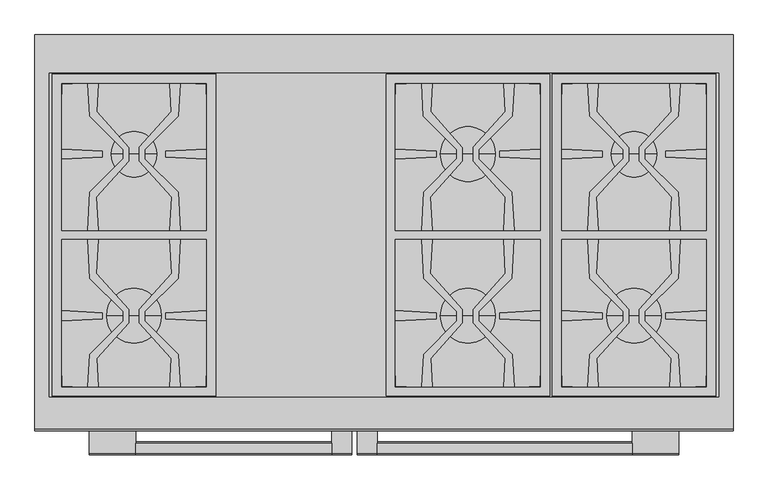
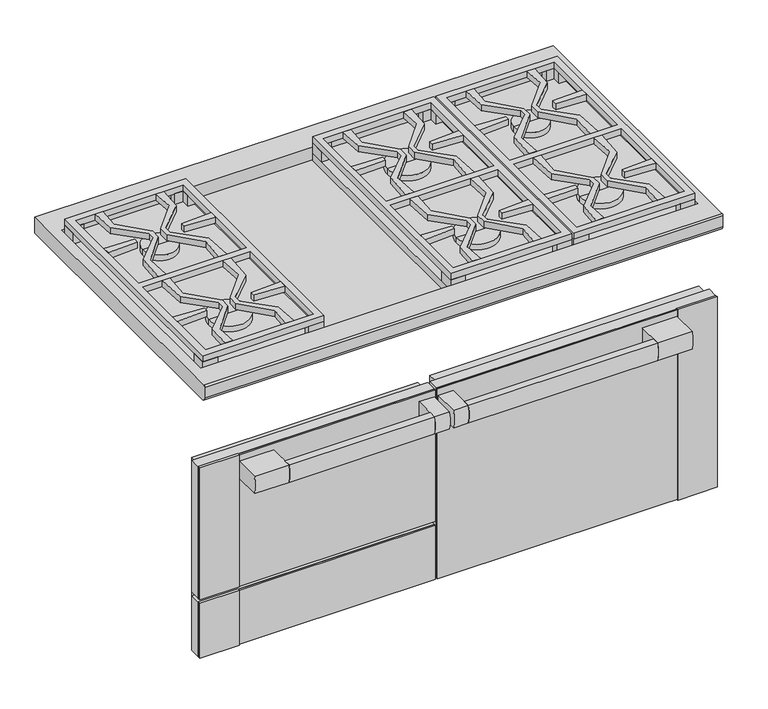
"""IFC4 building model written with IfcOpenShell, lengths in millimetres: proxy geometry, 11791690_USA_HR1955-3G_EDST-CLST : 25195581_USA_11791690_HR1955-3G_EDST-CLST."""

from ifc_helpers import new_model, si_unit, point, frame, frame_2d, origin, place, context, project, spatial, polyline, circle_curve, trimmed, segment, composite_curve, outline, extrude, faceted_brep, source, transform, mapped, element, save
from ifc_brep_helpers import plane_surface, cylinder_surface, advanced_brep


def specialty_equipment_023cb875(model_context):
    return source(origin(), model_context, "Body", "SolidModel", [
        extrude(outline(composite_curve([segment(trimmed(circle_curve(frame_2d((-655.4583333, 645.5)), 78.5416667), [point((-731.0, 624.0))], [point((-731.0, 667.0))], False, "CARTESIAN"), True, "CONTINUOUS"), segment(polyline([(-731.0, 667.0), (-714.0, 667.0)]), True, "CONTINUOUS"), segment(trimmed(circle_curve(frame_2d((-789.5416667, 645.5)), 78.5416667), [point((-714.0, 667.0))], [point((-714.0, 624.0))], False, "CARTESIAN"), True, "CONTINUOUS"), segment(polyline([(-714.0, 624.0), (-731.0, 624.0)]), True, "CONTINUOUS")], self_intersect=False)), frame((-11.5, 0.0, 0.0), z_axis=(1.0, 0.0, 0.0), x_axis=(0.0, 1.0, 0.0)), (0.0, 0.0, 1.0), 445.0),
        extrude(outline(composite_curve([segment(trimmed(circle_curve(frame_2d((-655.4583333, 645.5)), 78.5416667), [point((-731.0, 624.0))], [point((-731.0, 667.0))], False, "CARTESIAN"), True, "CONTINUOUS"), segment(polyline([(-731.0, 667.0), (-714.0, 667.0)]), True, "CONTINUOUS"), segment(trimmed(circle_curve(frame_2d((-789.5416667, 645.5)), 78.5416667), [point((-714.0, 667.0))], [point((-714.0, 624.0))], False, "CARTESIAN"), True, "CONTINUOUS"), segment(polyline([(-714.0, 624.0), (-731.0, 624.0)]), True, "CONTINUOUS")], self_intersect=False)), frame((-433.5, 0.0, 0.0), z_axis=(1.0, 0.0, 0.0), x_axis=(0.0, 1.0, 0.0)), (0.0, 0.0, 1.0), 342.0),
        extrude(outline(composite_curve([segment(polyline([(-731.0, 667.0), (-668.7, 667.0), (-668.7, 624.0), (-731.0, 624.0)]), True, "CONTINUOUS"), segment(trimmed(circle_curve(frame_2d((-655.4583333, 645.5)), 78.5416667), [point((-731.0, 624.0))], [point((-731.0, 667.0))], False, "CARTESIAN"), True, "CONTINUOUS")], self_intersect=False)), frame((-46.5, 0.0, 0.0), z_axis=(1.0, 0.0, 0.0), x_axis=(0.0, 1.0, 0.0)), (0.0, 0.0, 1.0), 35.0),
        extrude(outline(composite_curve([segment(polyline([(-731.0, 667.0), (-668.7, 667.0), (-668.7, 624.0), (-731.0, 624.0)]), True, "CONTINUOUS"), segment(trimmed(circle_curve(frame_2d((-655.4583333, 645.5)), 78.5416667), [point((-731.0, 624.0))], [point((-731.0, 667.0))], False, "CARTESIAN"), True, "CONTINUOUS")], self_intersect=False)), frame((-91.5, 0.0, 0.0), z_axis=(1.0, 0.0, 0.0), x_axis=(0.0, 1.0, 0.0)), (0.0, 0.0, 1.0), 35.0),
        extrude(outline(composite_curve([segment(polyline([(-731.0, 667.0), (-668.7, 667.0), (-668.7, 624.0), (-731.0, 624.0)]), True, "CONTINUOUS"), segment(trimmed(circle_curve(frame_2d((-655.4583333, 645.5)), 78.5416667), [point((-731.0, 624.0))], [point((-731.0, 667.0))], False, "CARTESIAN"), True, "CONTINUOUS")], self_intersect=False)), frame((433.5, 0.0, 0.0), z_axis=(1.0, 0.0, 0.0), x_axis=(0.0, 1.0, 0.0)), (0.0, 0.0, 1.0), 81.0),
        extrude(outline(composite_curve([segment(polyline([(-668.7, 667.0), (-668.7, 624.0), (-731.0, 624.0)]), True, "CONTINUOUS"), segment(trimmed(circle_curve(frame_2d((-655.4583333, 645.5)), 78.5416667), [point((-731.0, 624.0))], [point((-731.0, 667.0))], False, "CARTESIAN"), True, "CONTINUOUS"), segment(polyline([(-731.0, 667.0), (-668.7, 667.0)]), True, "CONTINUOUS")], self_intersect=False)), frame((-514.5, 0.0, 0.0), z_axis=(1.0, 0.0, 0.0), x_axis=(0.0, 1.0, 0.0)), (0.0, 0.0, 1.0), 81.0),
        extrude(outline(polyline([(-596.5, -617.0), (-65.5, -617.0), (-65.5, -638.0), (-596.5, -638.0), (-596.5, -617.0)])), frame((0.0, 0.0, 211.5), z_axis=(0.0, 0.0, 1.0), x_axis=(1.0, 0.0, 0.0)), (0.0, 0.0, 1.0), 134.0),
        extrude(outline(polyline([(-596.5, -617.0), (-65.5, -617.0), (-65.5, -638.0), (-596.5, -638.0), (-596.5, -617.0)])), frame((0.0, 0.0, 359.0), z_axis=(0.0, 0.0, 1.0), x_axis=(1.0, 0.0, 0.0)), (0.0, 0.0, 1.0), 315.0),
        extrude(outline(polyline([(-36.5, -617.0), (596.5, -617.0), (596.5, -638.0), (-36.5, -638.0), (-36.5, -617.0)])), frame((0.0, 0.0, 218.0), z_axis=(0.0, 0.0, 1.0), x_axis=(1.0, 0.0, 0.0)), (0.0, 0.0, 1.0), 464.0),
        extrude(outline(polyline([(-608.5, -638.0), (-53.5, -638.0), (-53.5, -664.7), (-608.5, -664.7), (-608.5, -638.0)])), frame((0.0, 0.0, 211.0), z_axis=(0.0, 0.0, 1.0), x_axis=(1.0, 0.0, 0.0)), (0.0, 0.0, 1.0), 135.0),
        extrude(outline(polyline([(-48.5, -638.0), (608.5, -638.0), (608.5, -664.7), (-48.5, -664.7), (-48.5, -638.0)])), frame((0.0, 0.0, 211.0), z_axis=(0.0, 0.0, 1.0), x_axis=(1.0, 0.0, 0.0)), (0.0, 0.0, 1.0), 472.0),
        extrude(outline(polyline([(-608.5, -638.0), (-53.5, -638.0), (-53.5, -664.7), (-608.5, -664.7), (-608.5, -638.0)])), frame((0.0, 0.0, 356.0), z_axis=(0.0, 0.0, 1.0), x_axis=(1.0, 0.0, 0.0)), (0.0, 0.0, 1.0), 327.0),
        extrude(outline(polyline([(-607.5, -664.7), (-53.5, -664.7), (-53.5, -668.7), (-607.5, -668.7), (-607.5, -664.7)])), frame((0.0, 0.0, 211.0), z_axis=(0.0, 0.0, 1.0), x_axis=(1.0, 0.0, 0.0)), (0.0, 0.0, 1.0), 135.0),
        faceted_brep([(-515.5, -664.7, 210.0), (-608.5, -664.7, 210.0), (-608.5, -664.7, 347.0), (-515.5, -664.7, 347.0), (-515.5, -664.7, 346.0), (-607.5, -664.7, 346.0), (-607.5, -664.7, 211.0), (-515.5, -664.7, 211.0), (-515.5, -670.0, 347.0), (-608.5, -670.0, 347.0), (-608.5, -670.0, 210.0), (-515.5, -670.0, 210.0), (-515.5, -668.7, 211.0), (-515.5, -668.7, 346.0), (-607.5, -668.7, 211.0), (-607.5, -668.7, 346.0)], [[[0, 1, 2, 3, 4, 5, 6, 7]], [[8, 9, 10, 11]], [[8, 11, 0, 7, 12, 13, 4, 3]], [[1, 0, 11, 10]], [[2, 1, 10, 9]], [[3, 2, 9, 8]], [[12, 14, 15, 13]], [[14, 12, 7, 6]], [[15, 14, 6, 5]], [[13, 15, 5, 4]]]),
        extrude(outline(polyline([(-607.5, -664.7), (-53.5, -664.7), (-53.5, -668.7), (-607.5, -668.7), (-607.5, -664.7)])), frame((0.0, 0.0, 356.0), z_axis=(0.0, 0.0, 1.0), x_axis=(1.0, 0.0, 0.0)), (0.0, 0.0, 1.0), 327.0),
        faceted_brep([(-515.5, -664.7, 355.0), (-608.5, -664.7, 355.0), (-608.5, -664.7, 684.0), (-515.5, -664.7, 684.0), (-515.5, -664.7, 683.0), (-607.5, -664.7, 683.0), (-607.5, -664.7, 356.0), (-515.5, -664.7, 356.0), (-515.5, -670.0, 684.0), (-608.5, -670.0, 684.0), (-608.5, -670.0, 355.0), (-515.5, -670.0, 355.0), (-515.5, -668.7, 356.0), (-515.5, -668.7, 683.0), (-607.5, -668.7, 356.0), (-607.5, -668.7, 683.0)], [[[0, 1, 2, 3, 4, 5, 6, 7]], [[8, 9, 10, 11]], [[8, 11, 0, 7, 12, 13, 4, 3]], [[1, 0, 11, 10]], [[2, 1, 10, 9]], [[3, 2, 9, 8]], [[12, 14, 15, 13]], [[14, 12, 7, 6]], [[15, 14, 6, 5]], [[13, 15, 5, 4]]]),
        extrude(outline(polyline([(-48.5, -664.7), (607.5, -664.7), (607.5, -668.7), (-48.5, -668.7), (-48.5, -664.7)])), frame((0.0, 0.0, 211.0), z_axis=(0.0, 0.0, 1.0), x_axis=(1.0, 0.0, 0.0)), (0.0, 0.0, 1.0), 472.0),
        faceted_brep([(608.5, -664.7, 684.0), (608.5, -664.7, 210.0), (515.5, -664.7, 210.0), (515.5, -664.7, 211.0), (607.5, -664.7, 211.0), (607.5, -664.7, 683.0), (515.5, -664.7, 683.0), (515.5, -664.7, 684.0), (608.5, -670.0, 684.0), (515.5, -670.0, 684.0), (515.5, -670.0, 210.0), (608.5, -670.0, 210.0), (515.5, -668.7, 683.0), (515.5, -668.7, 211.0), (607.5, -668.7, 683.0), (607.5, -668.7, 211.0)], [[[0, 1, 2, 3, 4, 5, 6, 7]], [[8, 9, 10, 11]], [[1, 0, 8, 11]], [[2, 1, 11, 10]], [[10, 9, 7, 6, 12, 13, 3, 2]], [[0, 7, 9, 8]], [[14, 15, 13, 12]], [[15, 14, 5, 4]], [[13, 15, 4, 3]], [[14, 12, 6, 5]]]),
        extrude(outline(polyline([(355.9177304, -358.0273828), (373.9174107, -358.0273828), (370.8474419, -416.9894265), (426.9590566, -479.568392), (426.9590566, -503.4471434), (371.3930533, -565.5024535), (374.0051055, -615.0212482), (356.0054252, -615.0212482), (358.9706458, -558.0710081), (417.3494553, -499.6921986), (417.3494553, -483.3657133), (359.4764383, -425.4926963), (355.9177304, -358.0273828)])), frame((0.0, 0.0, 914.0), z_axis=(0.0, 0.0, 1.0), x_axis=(1.0, 0.0, 0.0)), (0.0, 0.0, 1.0), 15.0),
        extrude(outline(polyline([(502.0666917, -416.9448139), (498.9588735, -358.0273828), (516.9534566, -358.0273828), (513.4434746, -425.4403498), (455.5712231, -483.3126013), (455.5712231, -499.6295194), (514.0438392, -558.1021355), (517.0462487, -615.0212482), (499.041471, -615.0212482), (501.6220648, -565.4581775), (445.9590702, -503.3795395), (445.9590702, -479.6049953), (502.0666917, -416.9448139)])), frame((0.0, 0.0, 914.0), z_axis=(0.0, 0.0, 1.0), x_axis=(1.0, 0.0, 0.0)), (0.0, 0.0, 1.0), 15.0),
        extrude(outline(polyline([(65.9177304, -358.0273828), (83.9174107, -358.0273828), (80.8474419, -416.9894265), (136.9590566, -479.568392), (136.9590566, -503.4471434), (81.3930533, -565.5024535), (84.0051055, -615.0212482), (66.0054252, -615.0212482), (68.9706458, -558.0710081), (127.3494553, -499.6921986), (127.3494553, -483.3657133), (69.4764383, -425.4926963), (65.9177304, -358.0273828)])), frame((0.0, 0.0, 914.0), z_axis=(0.0, 0.0, 1.0), x_axis=(1.0, 0.0, 0.0)), (0.0, 0.0, 1.0), 15.0),
        extrude(outline(polyline([(212.0666917, -416.9448139), (208.9588735, -358.0273828), (226.9534566, -358.0273828), (223.4434746, -425.4403498), (165.5712231, -483.3126013), (165.5712231, -499.6295194), (224.0438392, -558.1021355), (227.0462487, -615.0212482), (209.041471, -615.0212482), (211.6220648, -565.4581775), (155.9590702, -503.3795395), (155.9590702, -479.6049953), (212.0666917, -416.9448139)])), frame((0.0, 0.0, 914.0), z_axis=(0.0, 0.0, 1.0), x_axis=(1.0, 0.0, 0.0)), (0.0, 0.0, 1.0), 15.0),
        extrude(outline(polyline([(-358.9561608, -558.1021355), (-355.9537513, -615.0212482), (-373.958529, -615.0212482), (-371.3779352, -565.4581775), (-427.0409298, -503.3795395), (-427.0409298, -479.6049953), (-370.9333083, -416.9448139), (-374.0411265, -358.0273828), (-356.0465434, -358.0273828), (-359.5565254, -425.4403498), (-417.4287769, -483.3126013), (-417.4287769, -499.6295194), (-358.9561608, -558.1021355)])), frame((0.0, 0.0, 914.0), z_axis=(0.0, 0.0, 1.0), x_axis=(1.0, 0.0, 0.0)), (0.0, 0.0, 1.0), 15.0),
        extrude(outline(polyline([(-501.6069467, -565.5024535), (-498.9948945, -615.0212482), (-516.9945748, -615.0212482), (-514.0293542, -558.0710081), (-455.6505447, -499.6921986), (-455.6505447, -483.3657133), (-513.5235617, -425.4926963), (-517.0822696, -358.0273828), (-499.0825893, -358.0273828), (-502.1525581, -416.9894265), (-446.0409434, -479.568392), (-446.0409434, -503.4471434), (-501.6069467, -565.5024535)])), frame((0.0, 0.0, 914.0), z_axis=(0.0, 0.0, 1.0), x_axis=(1.0, 0.0, 0.0)), (0.0, 0.0, 1.0), 15.0),
        extrude(outline(polyline([(355.9614138, -85.0), (373.9614138, -85.0), (371.3661974, -134.5196799), (427.0, -196.6082182), (427.0, -220.3917818), (370.8710782, -283.0328838), (373.9614138, -342.0), (355.9614138, -342.0), (359.4971843, -274.5334805), (417.3891082, -216.6415566), (417.3891082, -200.3584434), (358.9441217, -141.9134569), (355.9614138, -85.0)])), frame((0.0, 0.0, 914.0), z_axis=(0.0, 0.0, 1.0), x_axis=(1.0, 0.0, 0.0)), (0.0, 0.0, 1.0), 15.0),
        extrude(outline(polyline([(499.0, -85.0), (517.0, -85.0), (514.0172921, -141.9134569), (455.6108918, -200.3198573), (455.6108918, -216.6801428), (513.4642295, -274.5334805), (517.0, -342.0), (499.0, -342.0), (502.0903356, -283.0328839), (446.0, -220.4348449), (446.0, -196.5651551), (501.5952165, -134.5196799), (499.0, -85.0)])), frame((0.0, 0.0, 914.0), z_axis=(0.0, 0.0, 1.0), x_axis=(1.0, 0.0, 0.0)), (0.0, 0.0, 1.0), 15.0),
        extrude(outline(polyline([(83.9614138, -85.0), (81.3661974, -134.5196799), (137.0, -196.6082182), (137.0, -220.3917818), (80.8710782, -283.0328838), (83.9614138, -342.0), (65.9614138, -342.0), (69.4971843, -274.5334805), (127.3891082, -216.6415566), (127.3891082, -200.3584434), (68.9441217, -141.9134569), (65.9614138, -85.0), (83.9614138, -85.0)])), frame((0.0, 0.0, 914.0), z_axis=(0.0, 0.0, 1.0), x_axis=(1.0, 0.0, 0.0)), (0.0, 0.0, 1.0), 15.0),
        extrude(outline(polyline([(211.5952165, -134.5196799), (209.0, -85.0), (227.0, -85.0), (224.0172921, -141.9134569), (165.6108918, -200.3198573), (165.6108918, -216.6801428), (223.4642295, -274.5334805), (227.0, -342.0), (209.0, -342.0), (212.0903356, -283.0328839), (156.0, -220.4348449), (156.0, -196.5651551), (211.5952165, -134.5196799)])), frame((0.0, 0.0, 914.0), z_axis=(0.0, 0.0, 1.0), x_axis=(1.0, 0.0, 0.0)), (0.0, 0.0, 1.0), 15.0),
        extrude(outline(polyline([(579.0, -67.0), (579.0, -633.0), (294.0, -633.0), (294.0, -67.0), (579.0, -67.0)])), frame((0.0, 0.0, 870.0), z_axis=(0.0, 0.0, 1.0), x_axis=(1.0, 0.0, 0.0)), (0.0, 0.0, 1.0), 17.0),
        extrude(outline(polyline([(-294.0, -67.0), (-294.0, -633.0), (-579.0, -633.0), (-579.0, -67.0), (-294.0, -67.0)])), frame((0.0, 0.0, 870.0), z_axis=(0.0, 0.0, 1.0), x_axis=(1.0, 0.0, 0.0)), (0.0, 0.0, 1.0), 17.0),
        extrude(outline(polyline([(289.0, -69.0), (289.0, -631.0), (4.0, -631.0), (4.0, -69.0), (289.0, -69.0)])), frame((0.0, 0.0, 870.0), z_axis=(0.0, 0.0, 1.0), x_axis=(1.0, 0.0, 0.0)), (0.0, 0.0, 1.0), 17.0),
        extrude(outline(polyline([(-563.0, -217.4810574), (-563.0, -199.5189426), (-492.0, -203.2078739), (-492.0, -213.7921261), (-563.0, -217.4810574)])), frame((0.0, 0.0, 914.0), z_axis=(0.0, 0.0, 1.0), x_axis=(1.0, 0.0, 0.0)), (0.0, 0.0, 1.0), 15.0),
        extrude(outline(polyline([(-310.0, -199.5262039), (-310.0, -217.4737961), (-381.0, -213.7790477), (-381.0, -203.2209523), (-310.0, -199.5262039)])), frame((0.0, 0.0, 914.0), z_axis=(0.0, 0.0, 1.0), x_axis=(1.0, 0.0, 0.0)), (0.0, 0.0, 1.0), 15.0),
        extrude(outline(polyline([(-563.0, -499.9810574), (-563.0, -482.0189426), (-492.0, -485.7078739), (-492.0, -496.2921261), (-563.0, -499.9810574)])), frame((0.0, 0.0, 914.0), z_axis=(0.0, 0.0, 1.0), x_axis=(1.0, 0.0, 0.0)), (0.0, 0.0, 1.0), 15.0),
        extrude(outline(polyline([(-310.0, -482.0262039), (-310.0, -499.9737961), (-381.0, -496.2790477), (-381.0, -485.7209523), (-310.0, -482.0262039)])), frame((0.0, 0.0, 914.0), z_axis=(0.0, 0.0, 1.0), x_axis=(1.0, 0.0, 0.0)), (0.0, 0.0, 1.0), 15.0),
        extrude(outline(polyline([(20.0337834, -499.9810574), (20.0337834, -482.0189426), (91.0337834, -485.7078739), (91.0337834, -496.2921261), (20.0337834, -499.9810574)])), frame((0.0, 0.0, 914.0), z_axis=(0.0, 0.0, 1.0), x_axis=(1.0, 0.0, 0.0)), (0.0, 0.0, 1.0), 15.0),
        extrude(outline(polyline([(273.0337834, -482.0262039), (273.0337834, -499.9737961), (202.0337834, -496.2790477), (202.0337834, -485.7209523), (273.0337834, -482.0262039)])), frame((0.0, 0.0, 914.0), z_axis=(0.0, 0.0, 1.0), x_axis=(1.0, 0.0, 0.0)), (0.0, 0.0, 1.0), 15.0),
        extrude(outline(polyline([(310.0, -499.9810574), (310.0, -482.0189426), (381.0, -485.7078739), (381.0, -496.2921261), (310.0, -499.9810574)])), frame((0.0, 0.0, 914.0), z_axis=(0.0, 0.0, 1.0), x_axis=(1.0, 0.0, 0.0)), (0.0, 0.0, 1.0), 15.0),
        extrude(outline(polyline([(563.0, -482.0262039), (563.0, -499.9737961), (492.0, -496.2790477), (492.0, -485.7209523), (563.0, -482.0262039)])), frame((0.0, 0.0, 914.0), z_axis=(0.0, 0.0, 1.0), x_axis=(1.0, 0.0, 0.0)), (0.0, 0.0, 1.0), 15.0),
        extrude(outline(polyline([(310.0, -217.4810574), (310.0, -199.5189426), (381.0, -203.2078739), (381.0, -213.7921261), (310.0, -217.4810574)])), frame((0.0, 0.0, 914.0), z_axis=(0.0, 0.0, 1.0), x_axis=(1.0, 0.0, 0.0)), (0.0, 0.0, 1.0), 15.0),
        extrude(outline(polyline([(563.0, -199.5262039), (563.0, -217.4737961), (492.0, -213.7790477), (492.0, -203.2209523), (563.0, -199.5262039)])), frame((0.0, 0.0, 914.0), z_axis=(0.0, 0.0, 1.0), x_axis=(1.0, 0.0, 0.0)), (0.0, 0.0, 1.0), 15.0),
        extrude(outline(polyline([(-517.0385862, -85.0), (-499.0385862, -85.0), (-501.6338026, -134.5196799), (-446.0, -196.6082182), (-446.0, -220.3917818), (-502.1289218, -283.0328838), (-499.0385862, -342.0), (-517.0385862, -342.0), (-513.5028157, -274.5334805), (-455.6108918, -216.6415566), (-455.6108918, -200.3584434), (-514.0558783, -141.9134569), (-517.0385862, -85.0)])), frame((0.0, 0.0, 914.0), z_axis=(0.0, 0.0, 1.0), x_axis=(1.0, 0.0, 0.0)), (0.0, 0.0, 1.0), 15.0),
        extrude(outline(polyline([(-356.0, -85.0), (-358.9827079, -141.9134569), (-417.3891082, -200.3198573), (-417.3891082, -216.6801428), (-359.5357705, -274.5334805), (-356.0, -342.0), (-374.0, -342.0), (-370.9096644, -283.0328839), (-427.0, -220.4348449), (-427.0, -196.5651551), (-371.4047835, -134.5196799), (-374.0, -85.0), (-356.0, -85.0)])), frame((0.0, 0.0, 914.0), z_axis=(0.0, 0.0, 1.0), x_axis=(1.0, 0.0, 0.0)), (0.0, 0.0, 1.0), 15.0),
        extrude(outline(polyline([(-294.0, -631.0), (-329.0, -631.0), (-329.0, -615.0), (-310.0, -615.0), (-310.0, -596.0), (-294.0, -596.0), (-294.0, -631.0)])), frame((0.0, 0.0, 887.0), z_axis=(0.0, 0.0, 1.0), x_axis=(1.0, 0.0, 0.0)), (0.0, 0.0, 1.0), 27.0),
        extrude(outline(polyline([(-579.0, -631.0), (-579.0, -596.0), (-563.0, -596.0), (-563.0, -615.0), (-544.0, -615.0), (-544.0, -631.0), (-579.0, -631.0)])), frame((0.0, 0.0, 887.0), z_axis=(0.0, 0.0, 1.0), x_axis=(1.0, 0.0, 0.0)), (0.0, 0.0, 1.0), 27.0),
        extrude(outline(polyline([(-294.0, -69.0), (-294.0, -104.0), (-310.0, -104.0), (-310.0, -85.0), (-329.0, -85.0), (-329.0, -69.0), (-294.0, -69.0)])), frame((0.0, 0.0, 887.0), z_axis=(0.0, 0.0, 1.0), x_axis=(1.0, 0.0, 0.0)), (0.0, 0.0, 1.0), 27.0),
        extrude(outline(polyline([(-579.0, -69.0), (-544.0, -69.0), (-544.0, -85.0), (-563.0, -85.0), (-563.0, -104.0), (-579.0, -104.0), (-579.0, -69.0)])), frame((0.0, 0.0, 887.0), z_axis=(0.0, 0.0, 1.0), x_axis=(1.0, 0.0, 0.0)), (0.0, 0.0, 1.0), 27.0),
        extrude(outline(polyline([(20.0337834, -217.4810574), (20.0337834, -199.5189426), (91.0337834, -203.2078739), (91.0337834, -213.7921261), (20.0337834, -217.4810574)])), frame((0.0, 0.0, 914.0), z_axis=(0.0, 0.0, 1.0), x_axis=(1.0, 0.0, 0.0)), (0.0, 0.0, 1.0), 15.0),
        extrude(outline(polyline([(273.0337834, -199.5262039), (273.0337834, -217.4737961), (202.0337834, -213.7790477), (202.0337834, -203.2209523), (273.0337834, -199.5262039)])), frame((0.0, 0.0, 914.0), z_axis=(0.0, 0.0, 1.0), x_axis=(1.0, 0.0, 0.0)), (0.0, 0.0, 1.0), 15.0),
        advanced_brep(
        [(396.5, -208.5, 887.0), (476.5, -208.5, 887.0), (476.5, -208.5, 901.0), (396.5, -208.5, 901.0), (436.5, -208.5, 887.0), (436.5, -208.5, 901.0)],
        [
            (0, 1, circle_curve(frame((436.5, -208.5, 887.0), z_axis=(0.0, 0.0, 1.0), x_axis=(1.0, 0.0, 0.0)), 40.0)),
            (1, 2),
            (2, 3, circle_curve(frame((436.5, -208.5, 901.0), z_axis=(0.0, 0.0, -1.0), x_axis=(1.0, 0.0, 0.0)), 40.0)),
            (3, 0),
            (1, 0, circle_curve(frame((436.5, -208.5, 887.0), z_axis=(0.0, 0.0, 1.0), x_axis=(1.0, 0.0, 0.0)), 40.0)),
            (3, 2, circle_curve(frame((436.5, -208.5, 901.0), z_axis=(0.0, 0.0, -1.0), x_axis=(1.0, 0.0, 0.0)), 40.0)),
            (4, 1),
            (0, 4),
            (2, 5),
            (5, 3),
        ],
        [
            cylinder_surface(frame((436.5, -208.5, 2424.4), z_axis=(0.0, 0.0, -1.0), x_axis=(1.0, 0.0, 0.0)), 40.0),
            plane_surface(frame((436.5, -208.5, 887.0), z_axis=(0.0, 0.0, -1.0), x_axis=(1.0, 0.0, 0.0))),
            plane_surface(frame((436.5, -208.5, 901.0), z_axis=(0.0, 0.0, 1.0), x_axis=(1.0, 0.0, 0.0))),
        ],
        [
            (0, [[1, 2, 3, 4]]),
            (0, [[5, -4, 6, -2]]),
            (1, [[7, -1, 8]]),
            (1, [[-8, -5, -7]]),
            (2, [[-3, 9, 10]]),
            (2, [[-6, -10, -9]]),
        ],
    ),
        extrude(outline(polyline([(289.0, -69.0), (289.0, -631.0), (4.0, -631.0), (4.0, -69.0), (289.0, -69.0)]), holes=[polyline([(273.0337834, -85.0), (20.0337834, -85.0), (20.0337834, -342.0), (273.0337834, -342.0), (273.0337834, -85.0)]), polyline([(20.0337834, -358.0), (20.0337834, -615.0), (273.0337834, -615.0), (273.0337834, -358.0), (20.0337834, -358.0)])]), frame((0.0, 0.0, 914.0), z_axis=(0.0, 0.0, 1.0), x_axis=(1.0, 0.0, 0.0)), (0.0, 0.0, 1.0), 15.0),
        extrude(outline(polyline([(579.0, -69.0), (579.0, -631.0), (294.0, -631.0), (294.0, -69.0), (579.0, -69.0)]), holes=[polyline([(563.0, -85.0), (310.0, -85.0), (310.0, -342.0), (563.0, -342.0), (563.0, -85.0)]), polyline([(310.0, -358.0), (310.0, -615.0), (563.0, -615.0), (563.0, -358.0), (310.0, -358.0)])]), frame((0.0, 0.0, 914.0), z_axis=(0.0, 0.0, 1.0), x_axis=(1.0, 0.0, 0.0)), (0.0, 0.0, 1.0), 15.0),
        extrude(outline(polyline([(-294.0, -69.0), (-294.0, -631.0), (-579.0, -631.0), (-579.0, -69.0), (-294.0, -69.0)]), holes=[polyline([(-310.0, -85.0), (-563.0, -85.0), (-563.0, -342.0), (-310.0, -342.0), (-310.0, -85.0)]), polyline([(-563.0, -358.0), (-563.0, -615.0), (-310.0, -615.0), (-310.0, -358.0), (-563.0, -358.0)])]), frame((0.0, 0.0, 914.0), z_axis=(0.0, 0.0, 1.0), x_axis=(1.0, 0.0, 0.0)), (0.0, 0.0, 1.0), 15.0),
        advanced_brep(
        [(388.5, -491.0, 887.0), (484.5, -491.0, 887.0), (484.5, -491.0, 901.0), (388.5, -491.0, 901.0), (436.5, -491.0, 887.0), (436.5, -491.0, 901.0)],
        [
            (0, 1, circle_curve(frame((436.5, -491.0, 887.0), z_axis=(0.0, 0.0, 1.0), x_axis=(1.0, 0.0, 0.0)), 48.0)),
            (1, 2),
            (2, 3, circle_curve(frame((436.5, -491.0, 901.0), z_axis=(0.0, 0.0, -1.0), x_axis=(1.0, 0.0, 0.0)), 48.0)),
            (3, 0),
            (1, 0, circle_curve(frame((436.5, -491.0, 887.0), z_axis=(0.0, 0.0, 1.0), x_axis=(1.0, 0.0, 0.0)), 48.0)),
            (3, 2, circle_curve(frame((436.5, -491.0, 901.0), z_axis=(0.0, 0.0, -1.0), x_axis=(1.0, 0.0, 0.0)), 48.0)),
            (4, 1),
            (0, 4),
            (2, 5),
            (5, 3),
        ],
        [
            cylinder_surface(frame((436.5, -491.0, 2424.4), z_axis=(0.0, 0.0, -1.0), x_axis=(1.0, 0.0, 0.0)), 48.0),
            plane_surface(frame((436.5, -491.0, 887.0), z_axis=(0.0, 0.0, -1.0), x_axis=(1.0, 0.0, 0.0))),
            plane_surface(frame((436.5, -491.0, 901.0), z_axis=(0.0, 0.0, 1.0), x_axis=(1.0, 0.0, 0.0))),
        ],
        [
            (0, [[1, 2, 3, 4]]),
            (0, [[5, -4, 6, -2]]),
            (1, [[7, -1, 8]]),
            (1, [[-8, -5, -7]]),
            (2, [[-3, 9, 10]]),
            (2, [[-6, -10, -9]]),
        ],
    ),
        advanced_brep(
        [(-484.5, -491.0, 887.0), (-388.5, -491.0, 887.0), (-388.5, -491.0, 901.0), (-484.5, -491.0, 901.0), (-436.5, -491.0, 887.0), (-436.5, -491.0, 901.0)],
        [
            (0, 1, circle_curve(frame((-436.5, -491.0, 887.0), z_axis=(0.0, 0.0, 1.0), x_axis=(1.0, 0.0, 0.0)), 48.0)),
            (1, 2),
            (2, 3, circle_curve(frame((-436.5, -491.0, 901.0), z_axis=(0.0, 0.0, -1.0), x_axis=(1.0, 0.0, 0.0)), 48.0)),
            (3, 0),
            (1, 0, circle_curve(frame((-436.5, -491.0, 887.0), z_axis=(0.0, 0.0, 1.0), x_axis=(1.0, 0.0, 0.0)), 48.0)),
            (3, 2, circle_curve(frame((-436.5, -491.0, 901.0), z_axis=(0.0, 0.0, -1.0), x_axis=(1.0, 0.0, 0.0)), 48.0)),
            (4, 1),
            (0, 4),
            (2, 5),
            (5, 3),
        ],
        [
            cylinder_surface(frame((-436.5, -491.0, 2424.4), z_axis=(0.0, 0.0, -1.0), x_axis=(1.0, 0.0, 0.0)), 48.0),
            plane_surface(frame((-436.5, -491.0, 887.0), z_axis=(0.0, 0.0, -1.0), x_axis=(1.0, 0.0, 0.0))),
            plane_surface(frame((-436.5, -491.0, 901.0), z_axis=(0.0, 0.0, 1.0), x_axis=(1.0, 0.0, 0.0))),
        ],
        [
            (0, [[1, 2, 3, 4]]),
            (0, [[5, -4, 6, -2]]),
            (1, [[7, -1, 8]]),
            (1, [[-8, -5, -7]]),
            (2, [[-3, 9, 10]]),
            (2, [[-6, -10, -9]]),
        ],
    ),
        advanced_brep(
        [(-476.5, -208.5, 887.0), (-396.5, -208.5, 887.0), (-396.5, -208.5, 901.0), (-476.5, -208.5, 901.0), (-436.5, -208.5, 887.0), (-436.5, -208.5, 901.0)],
        [
            (0, 1, circle_curve(frame((-436.5, -208.5, 887.0), z_axis=(0.0, 0.0, 1.0), x_axis=(1.0, 0.0, 0.0)), 40.0)),
            (1, 2),
            (2, 3, circle_curve(frame((-436.5, -208.5, 901.0), z_axis=(0.0, 0.0, -1.0), x_axis=(1.0, 0.0, 0.0)), 40.0)),
            (3, 0),
            (1, 0, circle_curve(frame((-436.5, -208.5, 887.0), z_axis=(0.0, 0.0, 1.0), x_axis=(1.0, 0.0, 0.0)), 40.0)),
            (3, 2, circle_curve(frame((-436.5, -208.5, 901.0), z_axis=(0.0, 0.0, -1.0), x_axis=(1.0, 0.0, 0.0)), 40.0)),
            (4, 1),
            (0, 4),
            (2, 5),
            (5, 3),
        ],
        [
            cylinder_surface(frame((-436.5, -208.5, 2424.4), z_axis=(0.0, 0.0, -1.0), x_axis=(1.0, 0.0, 0.0)), 40.0),
            plane_surface(frame((-436.5, -208.5, 887.0), z_axis=(0.0, 0.0, -1.0), x_axis=(1.0, 0.0, 0.0))),
            plane_surface(frame((-436.5, -208.5, 901.0), z_axis=(0.0, 0.0, 1.0), x_axis=(1.0, 0.0, 0.0))),
        ],
        [
            (0, [[1, 2, 3, 4]]),
            (0, [[5, -4, 6, -2]]),
            (1, [[7, -1, 8]]),
            (1, [[-8, -5, -7]]),
            (2, [[-3, 9, 10]]),
            (2, [[-6, -10, -9]]),
        ],
    ),
        extrude(outline(polyline([(579.0, -631.0), (544.0, -631.0), (544.0, -615.0), (563.0, -615.0), (563.0, -596.0), (579.0, -596.0), (579.0, -631.0)])), frame((0.0, 0.0, 887.0), z_axis=(0.0, 0.0, 1.0), x_axis=(1.0, 0.0, 0.0)), (0.0, 0.0, 1.0), 27.0),
        extrude(outline(polyline([(294.0, -631.0), (294.0, -596.0), (310.0125078, -596.0), (310.0125078, -615.0), (329.0, -615.0), (329.0, -631.0), (294.0, -631.0)])), frame((0.0, 0.0, 887.0), z_axis=(0.0, 0.0, 1.0), x_axis=(1.0, 0.0, 0.0)), (0.0, 0.0, 1.0), 27.0),
        extrude(outline(polyline([(579.0, -69.0), (579.0, -104.0), (562.9874922, -104.0), (562.9874922, -85.0), (544.0, -85.0), (544.0, -69.0), (579.0, -69.0)])), frame((0.0, 0.0, 887.0), z_axis=(0.0, 0.0, 1.0), x_axis=(1.0, 0.0, 0.0)), (0.0, 0.0, 1.0), 27.0),
        extrude(outline(polyline([(294.0, -69.0), (329.0, -69.0), (329.0, -85.0), (310.0125078, -85.0), (310.0125078, -104.0), (294.0, -104.0), (294.0, -69.0)])), frame((0.0, 0.0, 887.0), z_axis=(0.0, 0.0, 1.0), x_axis=(1.0, 0.0, 0.0)), (0.0, 0.0, 1.0), 27.0),
        extrude(outline(polyline([(289.0, -631.0), (254.0, -631.0), (254.0, -615.0), (273.0337834, -615.0), (273.0337834, -596.0), (289.0, -596.0), (289.0, -631.0)])), frame((0.0, 0.0, 887.0), z_axis=(0.0, 0.0, 1.0), x_axis=(1.0, 0.0, 0.0)), (0.0, 0.0, 1.0), 27.0),
        extrude(outline(polyline([(4.0, -631.0), (4.0, -596.0), (20.0337834, -596.0), (20.0337834, -615.0), (39.0, -615.0), (39.0, -631.0), (4.0, -631.0)])), frame((0.0, 0.0, 887.0), z_axis=(0.0, 0.0, 1.0), x_axis=(1.0, 0.0, 0.0)), (0.0, 0.0, 1.0), 27.0),
        extrude(outline(polyline([(289.0, -69.0), (289.0, -104.0), (273.0337834, -104.0), (273.0337834, -85.0), (254.0, -85.0), (254.0, -69.0), (289.0, -69.0)])), frame((0.0, 0.0, 887.0), z_axis=(0.0, 0.0, 1.0), x_axis=(1.0, 0.0, 0.0)), (0.0, 0.0, 1.0), 27.0),
        extrude(outline(polyline([(4.0, -69.0), (39.0, -69.0), (39.0, -85.0), (20.0337834, -85.0), (20.0337834, -104.0), (4.0, -104.0), (4.0, -69.0)])), frame((0.0, 0.0, 887.0), z_axis=(0.0, 0.0, 1.0), x_axis=(1.0, 0.0, 0.0)), (0.0, 0.0, 1.0), 27.0),
        advanced_brep(
        [(98.5, -208.5, 887.0), (194.5, -208.5, 887.0), (194.5, -208.5, 901.0), (98.5, -208.5, 901.0), (146.5, -208.5, 887.0), (146.5, -208.5, 901.0)],
        [
            (0, 1, circle_curve(frame((146.5, -208.5, 887.0), z_axis=(0.0, 0.0, 1.0), x_axis=(1.0, 0.0, 0.0)), 48.0)),
            (1, 2),
            (2, 3, circle_curve(frame((146.5, -208.5, 901.0), z_axis=(0.0, 0.0, -1.0), x_axis=(1.0, 0.0, 0.0)), 48.0)),
            (3, 0),
            (1, 0, circle_curve(frame((146.5, -208.5, 887.0), z_axis=(0.0, 0.0, 1.0), x_axis=(1.0, 0.0, 0.0)), 48.0)),
            (3, 2, circle_curve(frame((146.5, -208.5, 901.0), z_axis=(0.0, 0.0, -1.0), x_axis=(1.0, 0.0, 0.0)), 48.0)),
            (4, 1),
            (0, 4),
            (2, 5),
            (5, 3),
        ],
        [
            cylinder_surface(frame((146.5, -208.5, 2338.4), z_axis=(0.0, 0.0, -1.0), x_axis=(1.0, 0.0, 0.0)), 48.0),
            plane_surface(frame((146.5, -208.5, 887.0), z_axis=(0.0, 0.0, -1.0), x_axis=(1.0, 0.0, 0.0))),
            plane_surface(frame((146.5, -208.5, 901.0), z_axis=(0.0, 0.0, 1.0), x_axis=(1.0, 0.0, 0.0))),
        ],
        [
            (0, [[1, 2, 3, 4]]),
            (0, [[5, -4, 6, -2]]),
            (1, [[7, -1, 8]]),
            (1, [[-8, -5, -7]]),
            (2, [[-3, 9, 10]]),
            (2, [[-6, -10, -9]]),
        ],
    ),
        advanced_brep(
        [(98.5, -491.0, 887.0), (194.5, -491.0, 887.0), (194.5, -491.0, 901.0), (98.5, -491.0, 901.0), (146.5, -491.0, 887.0), (146.5, -491.0, 901.0)],
        [
            (0, 1, circle_curve(frame((146.5, -491.0, 887.0), z_axis=(0.0, 0.0, 1.0), x_axis=(1.0, 0.0, 0.0)), 48.0)),
            (1, 2),
            (2, 3, circle_curve(frame((146.5, -491.0, 901.0), z_axis=(0.0, 0.0, -1.0), x_axis=(1.0, 0.0, 0.0)), 48.0)),
            (3, 0),
            (1, 0, circle_curve(frame((146.5, -491.0, 887.0), z_axis=(0.0, 0.0, 1.0), x_axis=(1.0, 0.0, 0.0)), 48.0)),
            (3, 2, circle_curve(frame((146.5, -491.0, 901.0), z_axis=(0.0, 0.0, -1.0), x_axis=(1.0, 0.0, 0.0)), 48.0)),
            (4, 1),
            (0, 4),
            (2, 5),
            (5, 3),
        ],
        [
            cylinder_surface(frame((146.5, -491.0, 2424.4), z_axis=(0.0, 0.0, -1.0), x_axis=(1.0, 0.0, 0.0)), 48.0),
            plane_surface(frame((146.5, -491.0, 887.0), z_axis=(0.0, 0.0, -1.0), x_axis=(1.0, 0.0, 0.0))),
            plane_surface(frame((146.5, -491.0, 901.0), z_axis=(0.0, 0.0, 1.0), x_axis=(1.0, 0.0, 0.0))),
        ],
        [
            (0, [[1, 2, 3, 4]]),
            (0, [[5, -4, 6, -2]]),
            (1, [[7, -1, 8]]),
            (1, [[-8, -5, -7]]),
            (2, [[-3, 9, 10]]),
            (2, [[-6, -10, -9]]),
        ],
    ),
        advanced_brep(
        [(609.5, 0.0, 902.0), (609.5, -688.3499547, 902.0), (609.5, -692.0, 898.3499547), (609.5, -692.0, 872.0), (609.5, -682.0, 862.0), (609.5, 0.0, 862.0), (-609.5, 0.0, 902.0), (-609.5, 0.0, 862.0), (-609.5, -682.0, 862.0), (-609.5, -692.0, 872.0), (-609.5, -692.0, 898.3499547), (-609.5, -688.3499547, 902.0), (-584.5, -67.0, 902.0), (584.5, -67.0, 902.0), (584.5, -633.0, 902.0), (-584.5, -633.0, 902.0), (584.5, -67.0, 870.0), (-584.5, -67.0, 870.0), (-584.5, -633.0, 870.0), (584.5, -633.0, 870.0)],
        [
            (0, 1),
            (1, 2, circle_curve(frame((609.5, -688.0, 898.0), z_axis=(1.0, 0.0, 0.0), x_axis=(0.0, 0.0, 1.0)), 4.0152794)),
            (2, 3),
            (3, 4, circle_curve(frame((609.5, -682.0, 872.0), z_axis=(1.0, 0.0, 0.0), x_axis=(0.0, 0.0, 1.0)), 10.0)),
            (4, 5),
            (5, 0),
            (6, 7),
            (7, 8),
            (8, 9, circle_curve(frame((-609.5, -682.0, 872.0), z_axis=(-1.0, 0.0, 0.0), x_axis=(0.0, 0.0, 1.0)), 10.0)),
            (9, 10),
            (10, 11, circle_curve(frame((-609.5, -688.0, 898.0), z_axis=(-1.0, 0.0, 0.0), x_axis=(0.0, 0.0, 1.0)), 4.0152794)),
            (11, 6),
            (0, 6),
            (11, 1),
            (12, 13),
            (13, 14),
            (14, 15),
            (15, 12),
            (10, 2),
            (9, 3),
            (8, 4),
            (7, 5),
            (16, 17),
            (17, 18),
            (18, 19),
            (19, 16),
            (16, 13),
            (12, 17),
            (15, 18),
            (14, 19),
        ],
        [
            plane_surface(frame((609.5, -688.3499547, 902.0), z_axis=(1.0, 0.0, 0.0), x_axis=(0.0, -1.0, 0.0))),
            plane_surface(frame((-609.5, -688.3499547, 902.0), z_axis=(-1.0, 0.0, 0.0), x_axis=(0.0, 1.0, 0.0))),
            plane_surface(frame((609.5, 0.0, 902.0), z_axis=(0.0, 0.0, 1.0), x_axis=(-1.0, 0.0, 0.0))),
            cylinder_surface(frame((-609.5, -688.0, 898.0), z_axis=(1.0, 0.0, 0.0), x_axis=(0.0, 0.0, 1.0)), 4.0152794),
            plane_surface(frame((609.5, -692.0, 898.3499547), z_axis=(0.0, -1.0, 0.0), x_axis=(-1.0, 0.0, 0.0))),
            cylinder_surface(frame((-609.5, -682.0, 872.0), z_axis=(1.0, 0.0, 0.0), x_axis=(0.0, 0.0, 1.0)), 10.0),
            plane_surface(frame((609.5, -682.0, 862.0), z_axis=(0.0, 0.0, -1.0), x_axis=(-1.0, 0.0, 0.0))),
            plane_surface(frame((609.5, 0.0, 862.0), z_axis=(0.0, 1.0, 0.0), x_axis=(-1.0, 0.0, 0.0))),
            plane_surface(frame((-584.5, -67.0, 870.0), z_axis=(0.0, 0.0, 1.0), x_axis=(1.0, 0.0, 0.0))),
            plane_surface(frame((584.5, -67.0, 902.0), z_axis=(0.0, -1.0, 0.0), x_axis=(0.0, 0.0, -1.0))),
            plane_surface(frame((-584.5, -67.0, 902.0), z_axis=(1.0, 0.0, 0.0), x_axis=(0.0, 0.0, -1.0))),
            plane_surface(frame((-584.5, -633.0, 902.0), z_axis=(0.0, 1.0, 0.0), x_axis=(0.0, 0.0, -1.0))),
            plane_surface(frame((584.5, -633.0, 902.0), z_axis=(-1.0, 0.0, 0.0), x_axis=(0.0, 0.0, -1.0))),
        ],
        [
            (0, [[1, 2, 3, 4, 5, 6]]),
            (1, [[7, 8, 9, 10, 11, 12]]),
            (2, [[-1, 13, -12, 14], [15, 16, 17, 18]]),
            (3, [[-2, -14, -11, 19]]),
            (4, [[-3, -19, -10, 20]]),
            (5, [[-4, -20, -9, 21]]),
            (6, [[-5, -21, -8, 22]]),
            (7, [[-6, -22, -7, -13]]),
            (8, [[23, 24, 25, 26]]),
            (9, [[-23, 27, -15, 28]]),
            (10, [[-24, -28, -18, 29]]),
            (11, [[-25, -29, -17, 30]]),
            (12, [[-26, -30, -16, -27]]),
        ],
    ),
    ])


if __name__ == "__main__":
    model = new_model("IFC4")
    model_context = context("Model", 3, world=origin())
    ifc_project = project(units=[si_unit("LENGTHUNIT", "METRE", prefix="MILLI")], contexts=[model_context])
    site = spatial("IfcSite", under=ifc_project)
    building = spatial("IfcBuilding", under=site)
    placement = place(None, origin())
    specialty_equipment_shape = specialty_equipment_023cb875(model_context)
    element("IfcBuildingElementProxy", 1, Name="11791690_USA_HR1955-3G_EDST-CLST : 25195581_USA_11791690_HR1955-3G_EDST-CLST", ObjectType="11791690_USA_HR1955-3G_EDST-CLST : 25195581_USA_11791690_HR1955-3G_EDST-CLST", at=placement, inside=building, context=model_context, shape_type="MappedRepresentation", body=[
        mapped(specialty_equipment_shape, transform((0.0, 0.0, 0.0), x_axis=(1.0, 0.0, 0.0), y_axis=(0.0, 1.0, 0.0), z_axis=(0.0, 0.0, 1.0))),
    ])
    save(model, "model.ifc")
